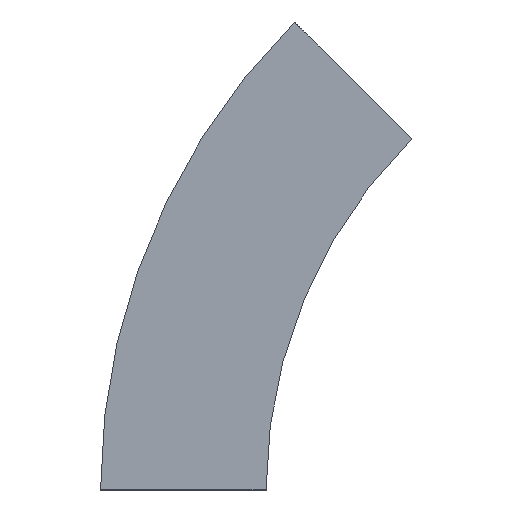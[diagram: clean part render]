
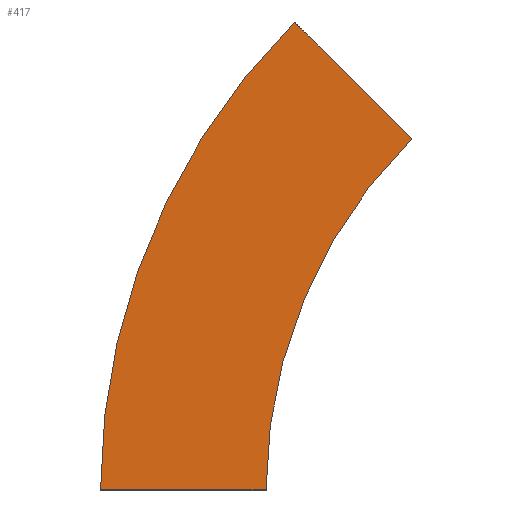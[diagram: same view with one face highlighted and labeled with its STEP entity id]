
A CAD part, left-side view. The second image highlights one B-rep face of the part: STEP entity #417.
In plain terms, the highlighted planar face has unit normal (-1, 0, 0) as drawn and (1, 0, 0) by its records, which use the part's own axes.
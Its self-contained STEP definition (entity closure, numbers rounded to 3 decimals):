
#2 = CIRCLE ( 'NONE', #323, 400. ) ;
#4 = CARTESIAN_POINT ( 'NONE',  ( 0., 100., 0. ) ) ;
#6 = EDGE_CURVE ( 'NONE', #497, #196, #378, .T. ) ;
#34 = EDGE_CURVE ( 'NONE', #196, #550, #228, .T. ) ;
#106 = PLANE ( 'NONE',  #472 ) ;
#116 = CARTESIAN_POINT ( 'NONE',  ( 0., -17.157, 282.843 ) ) ;
#135 = DIRECTION ( 'NONE',  ( 0., 0.707, 0.707 ) ) ;
#145 = DIRECTION ( 'NONE',  ( 0., 0., -1. ) ) ;
#148 = AXIS2_PLACEMENT_3D ( 'NONE', #352, #301, #490 ) ;
#156 = DIRECTION ( 'NONE',  ( 1., 0., 0. ) ) ;
#191 = CARTESIAN_POINT ( 'NONE',  ( 0., 0., 0. ) ) ;
#196 = VERTEX_POINT ( 'NONE', #554 ) ;
#206 = EDGE_CURVE ( 'NONE', #497, #457, #251, .T. ) ;
#214 = ORIENTED_EDGE ( 'NONE', *, *, #6, .F. ) ;
#228 = LINE ( 'NONE', #527, #362 ) ;
#251 = LINE ( 'NONE', #340, #465 ) ;
#266 = ORIENTED_EDGE ( 'NONE', *, *, #34, .F. ) ;
#301 = DIRECTION ( 'NONE',  ( 1., 0., 0. ) ) ;
#307 = DIRECTION ( 'NONE',  ( 1., 0., 0. ) ) ;
#323 = AXIS2_PLACEMENT_3D ( 'NONE', #534, #156, #551 ) ;
#340 = CARTESIAN_POINT ( 'NONE',  ( 0., 0., 0. ) ) ;
#352 = CARTESIAN_POINT ( 'NONE',  ( 0., -300., 0. ) ) ;
#362 = VECTOR ( 'NONE', #135, 1000. ) ;
#376 = ORIENTED_EDGE ( 'NONE', *, *, #502, .T. ) ;
#377 = DIRECTION ( 'NONE',  ( 0., 1., 0. ) ) ;
#378 = CIRCLE ( 'NONE', #148, 300. ) ;
#398 = FACE_OUTER_BOUND ( 'NONE', #496, .T. ) ;
#417 = ADVANCED_FACE ( 'NONE', ( #398 ), #106, .T. ) ;
#457 = VERTEX_POINT ( 'NONE', #4 ) ;
#465 = VECTOR ( 'NONE', #377, 1000. ) ;
#472 = AXIS2_PLACEMENT_3D ( 'NONE', #486, #307, #145 ) ;
#486 = CARTESIAN_POINT ( 'NONE',  ( 0., 0., 0. ) ) ;
#490 = DIRECTION ( 'NONE',  ( 0., 1., 0. ) ) ;
#496 = EDGE_LOOP ( 'NONE', ( #376, #266, #214, #498 ) ) ;
#497 = VERTEX_POINT ( 'NONE', #191 ) ;
#498 = ORIENTED_EDGE ( 'NONE', *, *, #206, .T. ) ;
#502 = EDGE_CURVE ( 'NONE', #457, #550, #2, .T. ) ;
#527 = CARTESIAN_POINT ( 'NONE',  ( 0., -87.868, 212.132 ) ) ;
#534 = CARTESIAN_POINT ( 'NONE',  ( 0., -300., 0. ) ) ;
#550 = VERTEX_POINT ( 'NONE', #116 ) ;
#551 = DIRECTION ( 'NONE',  ( 0., 1., 0. ) ) ;
#554 = CARTESIAN_POINT ( 'NONE',  ( 0., -87.868, 212.132 ) ) ;
